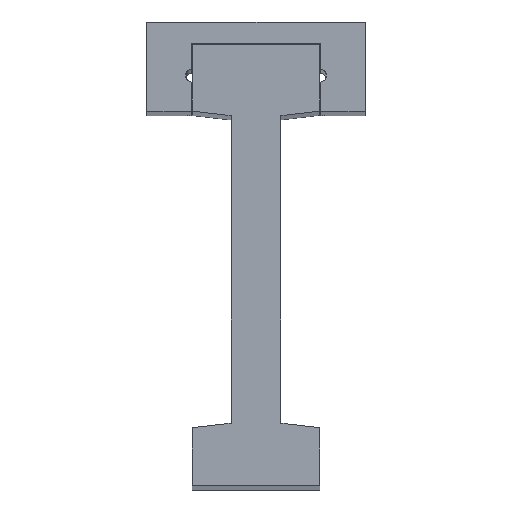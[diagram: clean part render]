
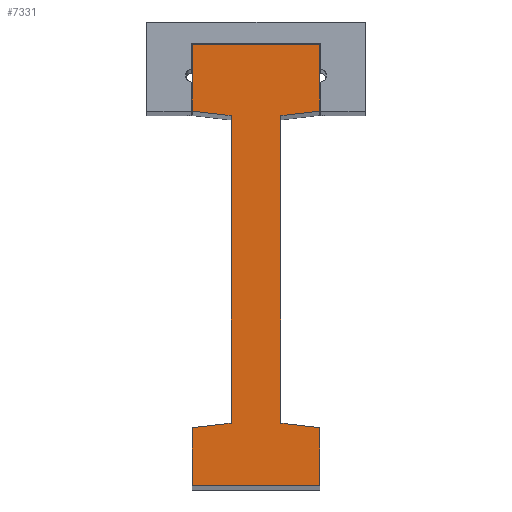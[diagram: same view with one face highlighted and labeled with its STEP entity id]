
A CAD part, top view. The second image highlights one B-rep face of the part: STEP entity #7331.
In plain terms, the highlighted planar face has unit normal (0, 0, 1).
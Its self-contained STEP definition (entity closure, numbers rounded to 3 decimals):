
#10 = ORIENTED_EDGE ( 'NONE', *, *, #2759, .T. ) ;
#47 = LINE ( 'NONE', #3457, #6479 ) ;
#88 = CARTESIAN_POINT ( 'NONE',  ( 77.8, 300.204, 845.517 ) ) ;
#211 = CARTESIAN_POINT ( 'NONE',  ( 57.95, 301.204, 845.517 ) ) ;
#258 = VERTEX_POINT ( 'NONE', #3776 ) ;
#273 = CARTESIAN_POINT ( 'NONE',  ( 66.6, 300.204, 845.517 ) ) ;
#309 = EDGE_CURVE ( 'NONE', #3896, #2518, #4243, .T. ) ;
#351 = VECTOR ( 'NONE', #4466, 1000. ) ;
#381 = CARTESIAN_POINT ( 'NONE',  ( 57.95, 230.204, 845.517 ) ) ;
#405 = VERTEX_POINT ( 'NONE', #211 ) ;
#507 = DIRECTION ( 'NONE',  ( 1., 0., 0. ) ) ;
#572 = VECTOR ( 'NONE', #4812, 1000. ) ;
#730 = ORIENTED_EDGE ( 'NONE', *, *, #1700, .F. ) ;
#740 = LINE ( 'NONE', #3037, #4860 ) ;
#784 = VECTOR ( 'NONE', #2279, 1000. ) ;
#788 = DIRECTION ( 'NONE',  ( -0.993, -0.115, 0. ) ) ;
#821 = LINE ( 'NONE', #6592, #1235 ) ;
#872 = LINE ( 'NONE', #4354, #1200 ) ;
#896 = CARTESIAN_POINT ( 'NONE',  ( 66.6, 231.204, 845.517 ) ) ;
#982 = EDGE_CURVE ( 'NONE', #2518, #4026, #7276, .T. ) ;
#1107 = EDGE_CURVE ( 'NONE', #4422, #4262, #7352, .T. ) ;
#1179 = CARTESIAN_POINT ( 'NONE',  ( 77.8, 231.204, 845.517 ) ) ;
#1200 = VECTOR ( 'NONE', #3155, 1000. ) ;
#1235 = VECTOR ( 'NONE', #1420, 1000. ) ;
#1293 = VERTEX_POINT ( 'NONE', #88 ) ;
#1382 = VERTEX_POINT ( 'NONE', #5499 ) ;
#1420 = DIRECTION ( 'NONE',  ( -1., 0., 0. ) ) ;
#1504 = CARTESIAN_POINT ( 'NONE',  ( 77.8, 231.204, 845.517 ) ) ;
#1588 = VECTOR ( 'NONE', #2650, 1000. ) ;
#1669 = DIRECTION ( 'NONE',  ( -0.993, 0.115, 0. ) ) ;
#1700 = EDGE_CURVE ( 'NONE', #5896, #405, #7269, .T. ) ;
#1735 = VECTOR ( 'NONE', #3873, 1000. ) ;
#1749 = EDGE_LOOP ( 'NONE', ( #4304, #730, #10, #4724, #5255, #4986, #6652, #6519, #6533, #4562, #4383, #4767 ) ) ;
#1878 = DIRECTION ( 'NONE',  ( 0., -1., 0. ) ) ;
#2191 = CARTESIAN_POINT ( 'NONE',  ( 57.95, 230.204, 845.517 ) ) ;
#2279 = DIRECTION ( 'NONE',  ( 0., 1., 0. ) ) ;
#2481 = LINE ( 'NONE', #6999, #3926 ) ;
#2518 = VERTEX_POINT ( 'NONE', #2191 ) ;
#2541 = VERTEX_POINT ( 'NONE', #1179 ) ;
#2650 = DIRECTION ( 'NONE',  ( 0., 1., 0. ) ) ;
#2759 = EDGE_CURVE ( 'NONE', #5896, #3896, #872, .T. ) ;
#2916 = CARTESIAN_POINT ( 'NONE',  ( 66.6, 231.204, 845.517 ) ) ;
#3037 = CARTESIAN_POINT ( 'NONE',  ( 86.45, 230.204, 845.517 ) ) ;
#3122 = DIRECTION ( 'NONE',  ( 1., 0., 0. ) ) ;
#3155 = DIRECTION ( 'NONE',  ( 0., -1., 0. ) ) ;
#3358 = EDGE_CURVE ( 'NONE', #2541, #1293, #3845, .T. ) ;
#3457 = CARTESIAN_POINT ( 'NONE',  ( 57.95, 316.204, 845.517 ) ) ;
#3654 = CARTESIAN_POINT ( 'NONE',  ( 57.95, 217.204, 845.517 ) ) ;
#3776 = CARTESIAN_POINT ( 'NONE',  ( 57.95, 316.204, 845.517 ) ) ;
#3845 = LINE ( 'NONE', #1504, #572 ) ;
#3873 = DIRECTION ( 'NONE',  ( 0., -1., 0. ) ) ;
#3896 = VERTEX_POINT ( 'NONE', #2916 ) ;
#3926 = VECTOR ( 'NONE', #5285, 1000. ) ;
#4025 = CARTESIAN_POINT ( 'NONE',  ( 86.45, 301.204, 845.517 ) ) ;
#4026 = VERTEX_POINT ( 'NONE', #4175 ) ;
#4028 = CARTESIAN_POINT ( 'NONE',  ( 86.45, 301.204, 845.517 ) ) ;
#4175 = CARTESIAN_POINT ( 'NONE',  ( 57.95, 217.204, 845.517 ) ) ;
#4243 = LINE ( 'NONE', #896, #5309 ) ;
#4262 = VERTEX_POINT ( 'NONE', #4837 ) ;
#4304 = ORIENTED_EDGE ( 'NONE', *, *, #6226, .T. ) ;
#4354 = CARTESIAN_POINT ( 'NONE',  ( 66.6, 298.704, 845.517 ) ) ;
#4383 = ORIENTED_EDGE ( 'NONE', *, *, #1107, .T. ) ;
#4422 = VERTEX_POINT ( 'NONE', #4028 ) ;
#4466 = DIRECTION ( 'NONE',  ( -0.993, 0.115, 0. ) ) ;
#4562 = ORIENTED_EDGE ( 'NONE', *, *, #5631, .T. ) ;
#4724 = ORIENTED_EDGE ( 'NONE', *, *, #309, .T. ) ;
#4767 = ORIENTED_EDGE ( 'NONE', *, *, #6272, .T. ) ;
#4812 = DIRECTION ( 'NONE',  ( 0., 1., 0. ) ) ;
#4837 = CARTESIAN_POINT ( 'NONE',  ( 86.45, 316.204, 845.517 ) ) ;
#4860 = VECTOR ( 'NONE', #1669, 1000. ) ;
#4961 = CARTESIAN_POINT ( 'NONE',  ( 57.95, 301.204, 845.517 ) ) ;
#4986 = ORIENTED_EDGE ( 'NONE', *, *, #6321, .T. ) ;
#5064 = CARTESIAN_POINT ( 'NONE',  ( 57.95, 217.204, 845.517 ) ) ;
#5080 = FACE_OUTER_BOUND ( 'NONE', #1749, .T. ) ;
#5255 = ORIENTED_EDGE ( 'NONE', *, *, #982, .T. ) ;
#5285 = DIRECTION ( 'NONE',  ( 0.993, 0.115, 0. ) ) ;
#5309 = VECTOR ( 'NONE', #788, 1000. ) ;
#5499 = CARTESIAN_POINT ( 'NONE',  ( 86.45, 230.204, 845.517 ) ) ;
#5550 = CARTESIAN_POINT ( 'NONE',  ( 86.45, 217.204, 845.517 ) ) ;
#5598 = LINE ( 'NONE', #5064, #6943 ) ;
#5631 = EDGE_CURVE ( 'NONE', #1293, #4422, #2481, .T. ) ;
#5647 = EDGE_CURVE ( 'NONE', #1382, #2541, #740, .T. ) ;
#5896 = VERTEX_POINT ( 'NONE', #273 ) ;
#6226 = EDGE_CURVE ( 'NONE', #258, #405, #47, .T. ) ;
#6272 = EDGE_CURVE ( 'NONE', #4262, #258, #821, .T. ) ;
#6321 = EDGE_CURVE ( 'NONE', #4026, #6917, #5598, .T. ) ;
#6479 = VECTOR ( 'NONE', #1878, 1000. ) ;
#6481 = AXIS2_PLACEMENT_3D ( 'NONE', #3654, #6910, #3122 ) ;
#6508 = CARTESIAN_POINT ( 'NONE',  ( 86.45, 217.204, 845.517 ) ) ;
#6519 = ORIENTED_EDGE ( 'NONE', *, *, #5647, .T. ) ;
#6533 = ORIENTED_EDGE ( 'NONE', *, *, #3358, .T. ) ;
#6592 = CARTESIAN_POINT ( 'NONE',  ( 86.45, 316.204, 845.517 ) ) ;
#6652 = ORIENTED_EDGE ( 'NONE', *, *, #6741, .T. ) ;
#6741 = EDGE_CURVE ( 'NONE', #6917, #1382, #7279, .T. ) ;
#6910 = DIRECTION ( 'NONE',  ( 0., 0., 1. ) ) ;
#6917 = VERTEX_POINT ( 'NONE', #6508 ) ;
#6943 = VECTOR ( 'NONE', #507, 1000. ) ;
#6999 = CARTESIAN_POINT ( 'NONE',  ( 86.45, 301.204, 845.517 ) ) ;
#7269 = LINE ( 'NONE', #4961, #351 ) ;
#7276 = LINE ( 'NONE', #381, #1735 ) ;
#7279 = LINE ( 'NONE', #5550, #1588 ) ;
#7331 = ADVANCED_FACE ( 'NONE', ( #5080 ), #7345, .T. ) ;
#7345 = PLANE ( 'NONE',  #6481 ) ;
#7352 = LINE ( 'NONE', #4025, #784 ) ;
